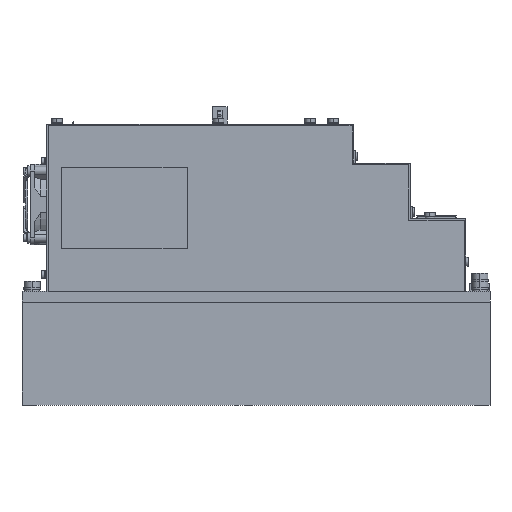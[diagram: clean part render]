
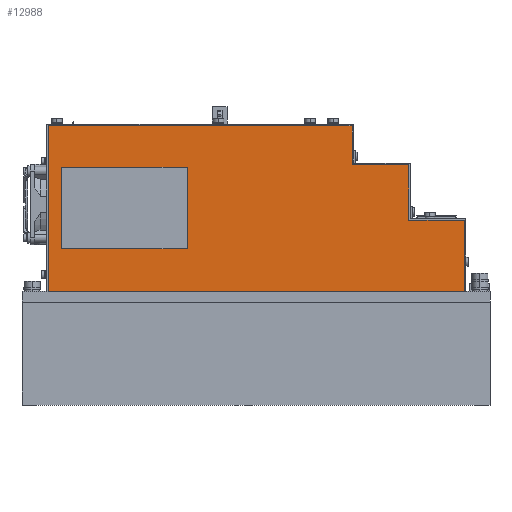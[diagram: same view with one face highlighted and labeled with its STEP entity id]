
A CAD part, left-side view. The second image highlights one B-rep face of the part: STEP entity #12988.
In plain terms, the highlighted planar face has unit normal (-1, 0, 0).
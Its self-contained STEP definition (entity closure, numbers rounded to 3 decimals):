
#8777 = DIRECTION ( 'NONE',  ( 0., -1., 0. ) ) ;
#8779 = VECTOR ( 'NONE', #8777, 1000. ) ;
#8781 = CARTESIAN_POINT ( 'NONE',  ( -25., -10.5, 208.8 ) ) ;
#8782 = LINE ( 'NONE', #8781, #8779 ) ;
#12925 = EDGE_CURVE ( 'NONE', #13070, #12927, #61881, .T. ) ;
#12927 = VERTEX_POINT ( 'NONE', #61877 ) ;
#12930 = ORIENTED_EDGE ( 'NONE', *, *, #12931, .T. ) ;
#12931 = EDGE_CURVE ( 'NONE', #12927, #12947, #61876, .T. ) ;
#12932 = EDGE_LOOP ( 'NONE', ( #12933, #12941, #13043, #13047 ) ) ;
#12933 = ORIENTED_EDGE ( 'NONE', *, *, #12935, .F. ) ;
#12935 = EDGE_CURVE ( 'NONE', #12937, #12939, #61872, .T. ) ;
#12937 = VERTEX_POINT ( 'NONE', #61868 ) ;
#12939 = VERTEX_POINT ( 'NONE', #61867 ) ;
#12941 = ORIENTED_EDGE ( 'NONE', *, *, #12944, .F. ) ;
#12944 = EDGE_CURVE ( 'NONE', #12945, #12937, #61929, .T. ) ;
#12945 = VERTEX_POINT ( 'NONE', #61925 ) ;
#12946 = VERTEX_POINT ( 'NONE', #61924 ) ;
#12947 = VERTEX_POINT ( 'NONE', #61923 ) ;
#12948 = ORIENTED_EDGE ( 'NONE', *, *, #12950, .F. ) ;
#12950 = EDGE_CURVE ( 'NONE', #12952, #12946, #61922, .T. ) ;
#12952 = VERTEX_POINT ( 'NONE', #61918 ) ;
#12954 = ORIENTED_EDGE ( 'NONE', *, *, #12956, .F. ) ;
#12956 = EDGE_CURVE ( 'NONE', #12958, #12952, #61917, .T. ) ;
#12958 = VERTEX_POINT ( 'NONE', #61913 ) ;
#12960 = ORIENTED_EDGE ( 'NONE', *, *, #12961, .T. ) ;
#12961 = EDGE_CURVE ( 'NONE', #12958, #12962, #61912, .T. ) ;
#12962 = VERTEX_POINT ( 'NONE', #61908 ) ;
#12963 = ORIENTED_EDGE ( 'NONE', *, *, #12965, .T. ) ;
#12965 = EDGE_CURVE ( 'NONE', #12962, #12967, #61907, .T. ) ;
#12967 = VERTEX_POINT ( 'NONE', #61903 ) ;
#12988 = ADVANCED_FACE ( 'NONE', ( #61952, #61951 ), #61950, .F. ) ;
#12991 = EDGE_LOOP ( 'NONE', ( #12994, #12948, #12954, #12960, #12963, #13068, #13072, #12930 ) ) ;
#12994 = ORIENTED_EDGE ( 'NONE', *, *, #46055, .F. ) ;
#13043 = ORIENTED_EDGE ( 'NONE', *, *, #13044, .F. ) ;
#13044 = EDGE_CURVE ( 'NONE', #13045, #12945, #62026, .T. ) ;
#13045 = VERTEX_POINT ( 'NONE', #62022 ) ;
#13047 = ORIENTED_EDGE ( 'NONE', *, *, #13049, .F. ) ;
#13049 = EDGE_CURVE ( 'NONE', #12939, #13045, #62021, .T. ) ;
#13068 = ORIENTED_EDGE ( 'NONE', *, *, #13069, .T. ) ;
#13069 = EDGE_CURVE ( 'NONE', #12967, #13070, #62001, .T. ) ;
#13070 = VERTEX_POINT ( 'NONE', #61997 ) ;
#13072 = ORIENTED_EDGE ( 'NONE', *, *, #12925, .T. ) ;
#46055 = EDGE_CURVE ( 'NONE', #12946, #12947, #8782, .T. ) ;
#61867 = CARTESIAN_POINT ( 'NONE',  ( -25., -116., 117. ) ) ;
#61868 = CARTESIAN_POINT ( 'NONE',  ( -25., -22., 117. ) ) ;
#61869 = DIRECTION ( 'NONE',  ( 0., -1., 0. ) ) ;
#61870 = VECTOR ( 'NONE', #61869, 1000. ) ;
#61871 = CARTESIAN_POINT ( 'NONE',  ( -25., -22., 117. ) ) ;
#61872 = LINE ( 'NONE', #61871, #61870 ) ;
#61873 = DIRECTION ( 'NONE',  ( 0., 0., 1. ) ) ;
#61874 = VECTOR ( 'NONE', #61873, 1000. ) ;
#61875 = CARTESIAN_POINT ( 'NONE',  ( -25., -239.3, 179.8 ) ) ;
#61876 = LINE ( 'NONE', #61875, #61874 ) ;
#61877 = CARTESIAN_POINT ( 'NONE',  ( -25., -239.3, 179.8 ) ) ;
#61878 = DIRECTION ( 'NONE',  ( 0., 1., 0. ) ) ;
#61879 = VECTOR ( 'NONE', #61878, 1000. ) ;
#61880 = CARTESIAN_POINT ( 'NONE',  ( -25., -281.7, 179.8 ) ) ;
#61881 = LINE ( 'NONE', #61880, #61879 ) ;
#61903 = CARTESIAN_POINT ( 'NONE',  ( -25., -281.7, 138.1 ) ) ;
#61904 = DIRECTION ( 'NONE',  ( 0., 1., 0. ) ) ;
#61905 = VECTOR ( 'NONE', #61904, 1000. ) ;
#61906 = CARTESIAN_POINT ( 'NONE',  ( -25., -324.5, 138.1 ) ) ;
#61907 = LINE ( 'NONE', #61906, #61905 ) ;
#61908 = CARTESIAN_POINT ( 'NONE',  ( -25., -323.5, 138.1 ) ) ;
#61909 = DIRECTION ( 'NONE',  ( 0., 0., 1. ) ) ;
#61910 = VECTOR ( 'NONE', #61909, 1000. ) ;
#61911 = CARTESIAN_POINT ( 'NONE',  ( -25., -323.5, 85. ) ) ;
#61912 = LINE ( 'NONE', #61911, #61910 ) ;
#61913 = CARTESIAN_POINT ( 'NONE',  ( -25., -323.5, 85.2 ) ) ;
#61914 = DIRECTION ( 'NONE',  ( 0., 1., 0. ) ) ;
#61915 = VECTOR ( 'NONE', #61914, 1000. ) ;
#61916 = CARTESIAN_POINT ( 'NONE',  ( -25., -324.5, 85.2 ) ) ;
#61917 = LINE ( 'NONE', #61916, #61915 ) ;
#61918 = CARTESIAN_POINT ( 'NONE',  ( -25., -12.1, 85.2 ) ) ;
#61919 = DIRECTION ( 'NONE',  ( 0., 0., 1. ) ) ;
#61920 = VECTOR ( 'NONE', #61919, 1000. ) ;
#61921 = CARTESIAN_POINT ( 'NONE',  ( -25., -12.1, 208.8 ) ) ;
#61922 = LINE ( 'NONE', #61921, #61920 ) ;
#61923 = CARTESIAN_POINT ( 'NONE',  ( -25., -239.3, 208.8 ) ) ;
#61924 = CARTESIAN_POINT ( 'NONE',  ( -25., -12.1, 208.8 ) ) ;
#61925 = CARTESIAN_POINT ( 'NONE',  ( -25., -22., 178. ) ) ;
#61926 = DIRECTION ( 'NONE',  ( 0., 0., -1. ) ) ;
#61927 = VECTOR ( 'NONE', #61926, 1000. ) ;
#61928 = CARTESIAN_POINT ( 'NONE',  ( -25., -22., 117. ) ) ;
#61929 = LINE ( 'NONE', #61928, #61927 ) ;
#61946 = DIRECTION ( 'NONE',  ( 0., 1., 0. ) ) ;
#61947 = DIRECTION ( 'NONE',  ( 1., 0., 0. ) ) ;
#61948 = CARTESIAN_POINT ( 'NONE',  ( -25., -10.5, 583.225 ) ) ;
#61949 = AXIS2_PLACEMENT_3D ( 'NONE', #61948, #61947, #61946 ) ;
#61950 = PLANE ( 'NONE',  #61949 ) ;
#61951 = FACE_BOUND ( 'NONE', #12932, .T. ) ;
#61952 = FACE_OUTER_BOUND ( 'NONE', #12991, .T. ) ;
#61997 = CARTESIAN_POINT ( 'NONE',  ( -25., -281.7, 179.8 ) ) ;
#61998 = DIRECTION ( 'NONE',  ( 0., 0., 1. ) ) ;
#61999 = VECTOR ( 'NONE', #61998, 1000. ) ;
#62000 = CARTESIAN_POINT ( 'NONE',  ( -25., -281.7, 138.1 ) ) ;
#62001 = LINE ( 'NONE', #62000, #61999 ) ;
#62018 = DIRECTION ( 'NONE',  ( 0., 0., 1. ) ) ;
#62019 = VECTOR ( 'NONE', #62018, 1000. ) ;
#62020 = CARTESIAN_POINT ( 'NONE',  ( -25., -116., 117. ) ) ;
#62021 = LINE ( 'NONE', #62020, #62019 ) ;
#62022 = CARTESIAN_POINT ( 'NONE',  ( -25., -116., 178. ) ) ;
#62023 = DIRECTION ( 'NONE',  ( 0., 1., 0. ) ) ;
#62024 = VECTOR ( 'NONE', #62023, 1000. ) ;
#62025 = CARTESIAN_POINT ( 'NONE',  ( -25., -22., 178. ) ) ;
#62026 = LINE ( 'NONE', #62025, #62024 ) ;
